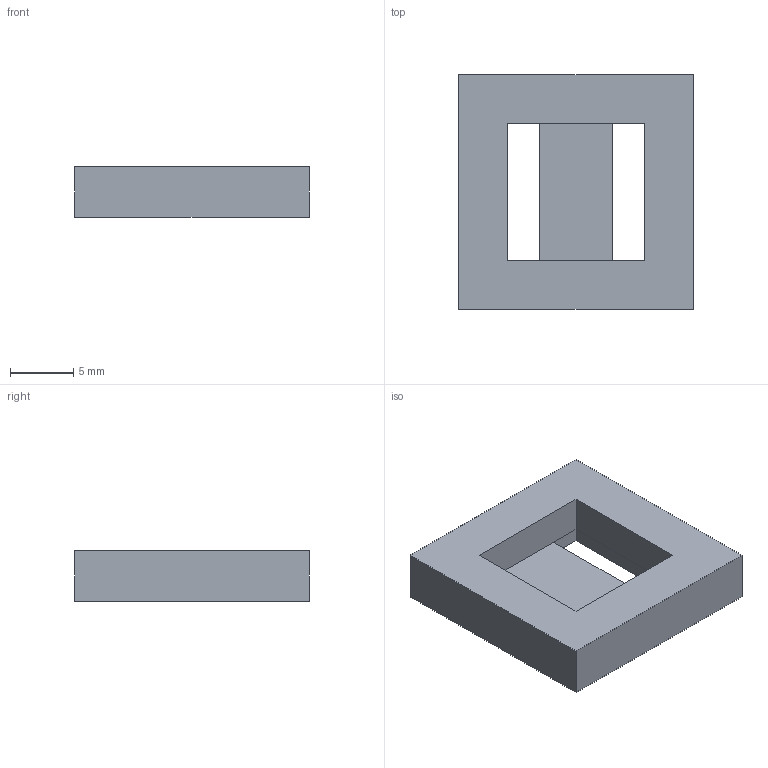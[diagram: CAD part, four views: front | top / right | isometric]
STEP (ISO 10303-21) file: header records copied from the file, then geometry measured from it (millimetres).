
FILE_DESCRIPTION(('Open CASCADE Model'),'2;1');
FILE_NAME('Open CASCADE Shape Model','2026-05-31T19:44:32',('Author'),( 'Open CASCADE'),'Open CASCADE STEP processor 7.6','Open CASCADE 7.6' ,'Unknown');
FILE_SCHEMA(('AP242_MANAGED_MODEL_BASED_3D_ENGINEERING_MIM_LF. {1 0 10303 442 1 1 4 }'));
Length unit declared in the file: millimetre
Products named in the file (1): Open CASCADE STEP translator 7.6 17
Bounding box: 18.5 x 18.5 x 4 mm (x, y, z)
Volume: 971.3 mm3; surface area: 1056.3 mm2
Topology: 1 solids, 1 shells, 19 faces, 46 edges, 28 vertices
Faces by surface type: plane 19
Entity records: 1152 total; most frequent: CARTESIAN_POINT 186, DIRECTION 178, LINE 138, VECTOR 138, ORIENTED_EDGE 92, PCURVE 92, DEFINITIONAL_REPRESENTATION 92, EDGE_CURVE 46
